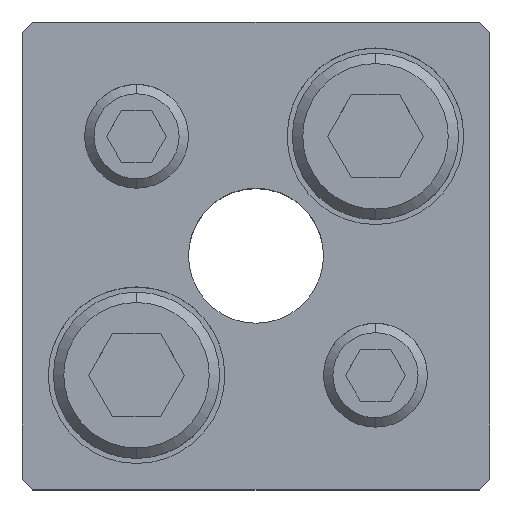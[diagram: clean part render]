
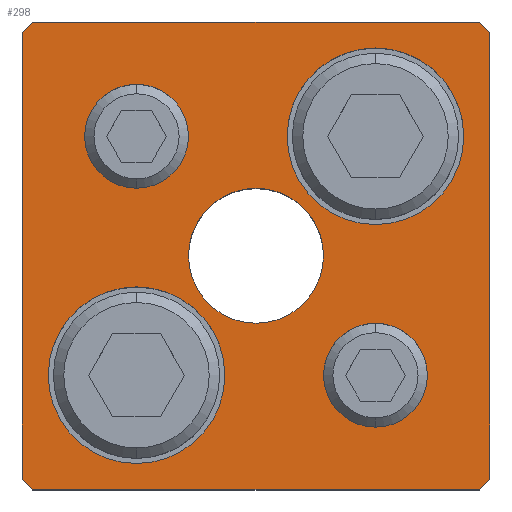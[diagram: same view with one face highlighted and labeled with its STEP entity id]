
A CAD part, top view. The second image highlights one B-rep face of the part: STEP entity #298.
In plain terms, the highlighted planar face has unit normal (0, 0, 1).
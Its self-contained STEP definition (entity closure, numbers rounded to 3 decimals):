
#153=PLANE('',#2436);
#220=FACE_BOUND('',#611,.T.);
#221=FACE_BOUND('',#612,.T.);
#222=FACE_BOUND('',#613,.T.);
#223=FACE_BOUND('',#614,.T.);
#224=FACE_BOUND('',#615,.T.);
#225=FACE_BOUND('',#616,.T.);
#298=ADVANCED_FACE('',(#220,#221,#222,#223,#224,#225),#153,.T.);
#611=EDGE_LOOP('',(#1281,#1282,#1283,#1284,#1285,#1286,#1287,#1288));
#612=EDGE_LOOP('',(#1289,#1290));
#613=EDGE_LOOP('',(#1291,#1292));
#614=EDGE_LOOP('',(#1293,#1294));
#615=EDGE_LOOP('',(#1295,#1296));
#616=EDGE_LOOP('',(#1297,#1298));
#759=LINE('',#3542,#941);
#760=LINE('',#3545,#942);
#761=LINE('',#3547,#943);
#762=LINE('',#3549,#944);
#763=LINE('',#3551,#945);
#764=LINE('',#3553,#946);
#765=LINE('',#3555,#947);
#766=LINE('',#3557,#948);
#941=VECTOR('',#2839,1.);
#942=VECTOR('',#2840,1.);
#943=VECTOR('',#2841,1.);
#944=VECTOR('',#2842,1.);
#945=VECTOR('',#2843,1.);
#946=VECTOR('',#2844,1.);
#947=VECTOR('',#2845,1.);
#948=VECTOR('',#2846,1.);
#1281=ORIENTED_EDGE('',*,*,#2001,.T.);
#1282=ORIENTED_EDGE('',*,*,#2002,.T.);
#1283=ORIENTED_EDGE('',*,*,#2003,.T.);
#1284=ORIENTED_EDGE('',*,*,#2004,.T.);
#1285=ORIENTED_EDGE('',*,*,#2005,.T.);
#1286=ORIENTED_EDGE('',*,*,#2006,.T.);
#1287=ORIENTED_EDGE('',*,*,#2007,.T.);
#1288=ORIENTED_EDGE('',*,*,#2008,.T.);
#1289=ORIENTED_EDGE('',*,*,#2009,.F.);
#1290=ORIENTED_EDGE('',*,*,#2010,.F.);
#1291=ORIENTED_EDGE('',*,*,#2011,.F.);
#1292=ORIENTED_EDGE('',*,*,#2012,.F.);
#1293=ORIENTED_EDGE('',*,*,#1987,.F.);
#1294=ORIENTED_EDGE('',*,*,#1983,.F.);
#1295=ORIENTED_EDGE('',*,*,#1981,.F.);
#1296=ORIENTED_EDGE('',*,*,#1977,.F.);
#1297=ORIENTED_EDGE('',*,*,#2013,.T.);
#1298=ORIENTED_EDGE('',*,*,#2014,.T.);
#1751=VERTEX_POINT('',#3493);
#1752=VERTEX_POINT('',#3494);
#1755=VERTEX_POINT('',#3506);
#1756=VERTEX_POINT('',#3507);
#1767=VERTEX_POINT('',#3543);
#1768=VERTEX_POINT('',#3544);
#1769=VERTEX_POINT('',#3546);
#1770=VERTEX_POINT('',#3548);
#1771=VERTEX_POINT('',#3550);
#1772=VERTEX_POINT('',#3552);
#1773=VERTEX_POINT('',#3554);
#1774=VERTEX_POINT('',#3556);
#1775=VERTEX_POINT('',#3559);
#1776=VERTEX_POINT('',#3560);
#1777=VERTEX_POINT('',#3563);
#1778=VERTEX_POINT('',#3564);
#1779=VERTEX_POINT('',#3567);
#1780=VERTEX_POINT('',#3568);
#1977=EDGE_CURVE('',#1751,#1752,#2247,.T.);
#1981=EDGE_CURVE('',#1752,#1751,#2249,.T.);
#1983=EDGE_CURVE('',#1755,#1756,#2251,.T.);
#1987=EDGE_CURVE('',#1756,#1755,#2253,.T.);
#2001=EDGE_CURVE('',#1767,#1768,#759,.T.);
#2002=EDGE_CURVE('',#1768,#1769,#760,.T.);
#2003=EDGE_CURVE('',#1769,#1770,#761,.T.);
#2004=EDGE_CURVE('',#1770,#1771,#762,.T.);
#2005=EDGE_CURVE('',#1771,#1772,#763,.T.);
#2006=EDGE_CURVE('',#1772,#1773,#764,.T.);
#2007=EDGE_CURVE('',#1773,#1774,#765,.T.);
#2008=EDGE_CURVE('',#1774,#1767,#766,.T.);
#2009=EDGE_CURVE('',#1775,#1776,#2263,.T.);
#2010=EDGE_CURVE('',#1776,#1775,#2264,.T.);
#2011=EDGE_CURVE('',#1777,#1778,#2265,.T.);
#2012=EDGE_CURVE('',#1778,#1777,#2266,.T.);
#2013=EDGE_CURVE('',#1779,#1780,#2267,.T.);
#2014=EDGE_CURVE('',#1780,#1779,#2268,.T.);
#2247=CIRCLE('',#2404,5.);
#2249=CIRCLE('',#2407,5.);
#2251=CIRCLE('',#2411,5.);
#2253=CIRCLE('',#2414,5.);
#2263=CIRCLE('',#2430,8.5);
#2264=CIRCLE('',#2431,8.5);
#2265=CIRCLE('',#2432,8.5);
#2266=CIRCLE('',#2433,8.5);
#2267=CIRCLE('',#2434,6.5);
#2268=CIRCLE('',#2435,6.5);
#2404=AXIS2_PLACEMENT_3D('',#3492,#2779,#2780);
#2407=AXIS2_PLACEMENT_3D('',#3501,#2787,#2788);
#2411=AXIS2_PLACEMENT_3D('',#3505,#2795,#2796);
#2414=AXIS2_PLACEMENT_3D('',#3514,#2803,#2804);
#2430=AXIS2_PLACEMENT_3D('',#3558,#2847,#2848);
#2431=AXIS2_PLACEMENT_3D('',#3561,#2849,#2850);
#2432=AXIS2_PLACEMENT_3D('',#3562,#2851,#2852);
#2433=AXIS2_PLACEMENT_3D('',#3565,#2853,#2854);
#2434=AXIS2_PLACEMENT_3D('',#3566,#2855,#2856);
#2435=AXIS2_PLACEMENT_3D('',#3569,#2857,#2858);
#2436=AXIS2_PLACEMENT_3D('',#3570,#2859,#2860);
#2779=DIRECTION('',(0.,0.,1.));
#2780=DIRECTION('',(-1.,0.,0.));
#2787=DIRECTION('',(0.,0.,1.));
#2788=DIRECTION('',(1.,0.,0.));
#2795=DIRECTION('',(0.,0.,1.));
#2796=DIRECTION('',(-1.,0.,0.));
#2803=DIRECTION('',(0.,0.,1.));
#2804=DIRECTION('',(1.,0.,0.));
#2839=DIRECTION('',(0.707,0.707,0.));
#2840=DIRECTION('',(0.,1.,0.));
#2841=DIRECTION('',(-0.707,0.707,0.));
#2842=DIRECTION('',(-1.,0.,0.));
#2843=DIRECTION('',(-0.707,-0.707,0.));
#2844=DIRECTION('',(0.,-1.,0.));
#2845=DIRECTION('',(0.707,-0.707,0.));
#2846=DIRECTION('',(1.,0.,0.));
#2847=DIRECTION('',(0.,0.,1.));
#2848=DIRECTION('',(1.,0.,0.));
#2849=DIRECTION('',(0.,0.,1.));
#2850=DIRECTION('',(-1.,0.,0.));
#2851=DIRECTION('',(0.,0.,1.));
#2852=DIRECTION('',(1.,0.,0.));
#2853=DIRECTION('',(0.,0.,1.));
#2854=DIRECTION('',(-1.,0.,0.));
#2855=DIRECTION('',(0.,0.,-1.));
#2856=DIRECTION('',(-1.,0.,0.));
#2857=DIRECTION('',(0.,0.,-1.));
#2858=DIRECTION('',(1.,0.,0.));
#2859=DIRECTION('',(0.,0.,1.));
#2860=DIRECTION('',(-1.,0.,0.));
#3492=CARTESIAN_POINT('',(11.5,-11.5,30.));
#3493=CARTESIAN_POINT('',(11.5,-16.5,30.));
#3494=CARTESIAN_POINT('',(11.5,-6.5,30.));
#3501=CARTESIAN_POINT('',(11.5,-11.5,30.));
#3505=CARTESIAN_POINT('',(-11.5,11.5,30.));
#3506=CARTESIAN_POINT('',(-11.5,6.5,30.));
#3507=CARTESIAN_POINT('',(-11.5,16.5,30.));
#3514=CARTESIAN_POINT('',(-11.5,11.5,30.));
#3542=CARTESIAN_POINT('',(21.5,-22.5,30.));
#3543=CARTESIAN_POINT('',(21.5,-22.5,30.));
#3544=CARTESIAN_POINT('',(22.5,-21.5,30.));
#3545=CARTESIAN_POINT('',(22.5,21.5,30.));
#3546=CARTESIAN_POINT('',(22.5,21.5,30.));
#3547=CARTESIAN_POINT('',(22.5,21.5,30.));
#3548=CARTESIAN_POINT('',(21.5,22.5,30.));
#3549=CARTESIAN_POINT('',(-21.5,22.5,30.));
#3550=CARTESIAN_POINT('',(-21.5,22.5,30.));
#3551=CARTESIAN_POINT('',(-21.5,22.5,30.));
#3552=CARTESIAN_POINT('',(-22.5,21.5,30.));
#3553=CARTESIAN_POINT('',(-22.5,21.5,30.));
#3554=CARTESIAN_POINT('',(-22.5,-21.5,30.));
#3555=CARTESIAN_POINT('',(-22.5,-21.5,30.));
#3556=CARTESIAN_POINT('',(-21.5,-22.5,30.));
#3557=CARTESIAN_POINT('',(-21.5,-22.5,30.));
#3558=CARTESIAN_POINT('',(11.5,11.5,30.));
#3559=CARTESIAN_POINT('',(11.5,20.,30.));
#3560=CARTESIAN_POINT('',(11.5,3.,30.));
#3561=CARTESIAN_POINT('',(11.5,11.5,30.));
#3562=CARTESIAN_POINT('',(-11.5,-11.5,30.));
#3563=CARTESIAN_POINT('',(-11.5,-3.,30.));
#3564=CARTESIAN_POINT('',(-11.5,-20.,30.));
#3565=CARTESIAN_POINT('',(-11.5,-11.5,30.));
#3566=CARTESIAN_POINT('',(0.,0.,30.));
#3567=CARTESIAN_POINT('',(0.,6.5,30.));
#3568=CARTESIAN_POINT('',(0.,-6.5,30.));
#3569=CARTESIAN_POINT('',(0.,0.,30.));
#3570=CARTESIAN_POINT('',(21.5,-22.5,30.));
